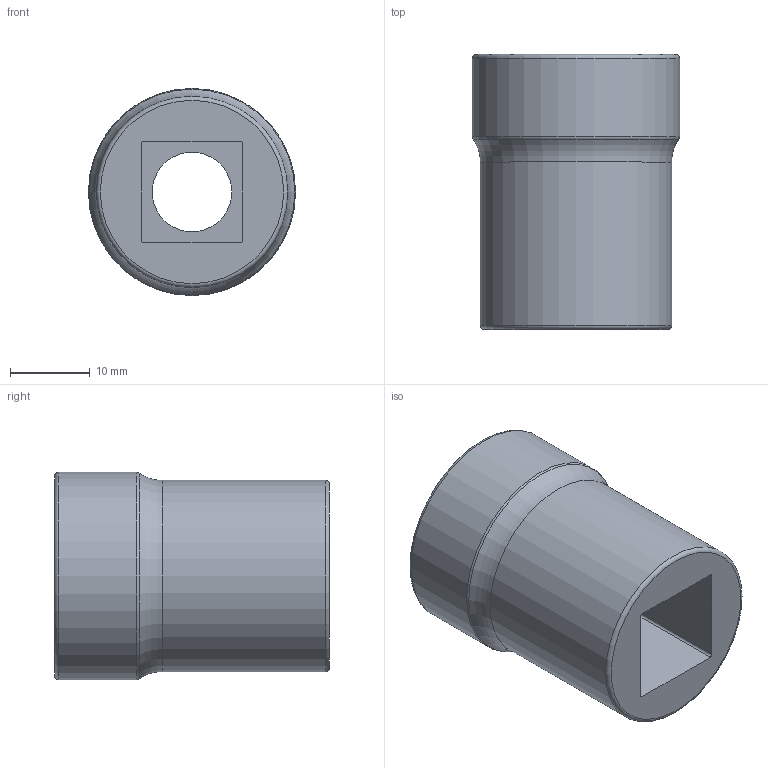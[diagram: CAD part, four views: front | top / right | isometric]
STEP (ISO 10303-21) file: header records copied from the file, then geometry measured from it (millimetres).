
FILE_DESCRIPTION(/* description */ (''),/* implementation_level */ '2;1');
FILE_NAME(/* name */ 'F:\呼び19.stp',/* time_stamp */ '2014-05-17T10:34:19+09:00',/* author */ ('unitec'),/* organization */ (''),/* preprocessor_version */ 'ST-DEVELOPER v15.2',/* originating_system */ 'Autodesk Inventor 2014',/* authorisation */ '');
FILE_SCHEMA (('AUTOMOTIVE_DESIGN { 1 0 10303 214 3 1 1 }'));
Length unit declared in the file: millimetre
Products named in the file (1): 呼び19
Bounding box: 26 x 34.5 x 26 mm (x, y, z)
Volume: 9954.9 mm3; surface area: 5189.9 mm2
Topology: 1 solids, 1 shells, 27 faces, 62 edges, 39 vertices
Faces by surface type: plane 14, cylinder 7, torus 5, cone 1
Full cylindrical faces by diameter (mm): 10 x1, 24 x1, 26 x1
Entity records: 733 total; most frequent: CARTESIAN_POINT 132, DIRECTION 122, ORIENTED_EDGE 106, EDGE_CURVE 53, AXIS2_PLACEMENT_3D 47, EDGE_LOOP 40, VERTEX_POINT 39, LINE 28
